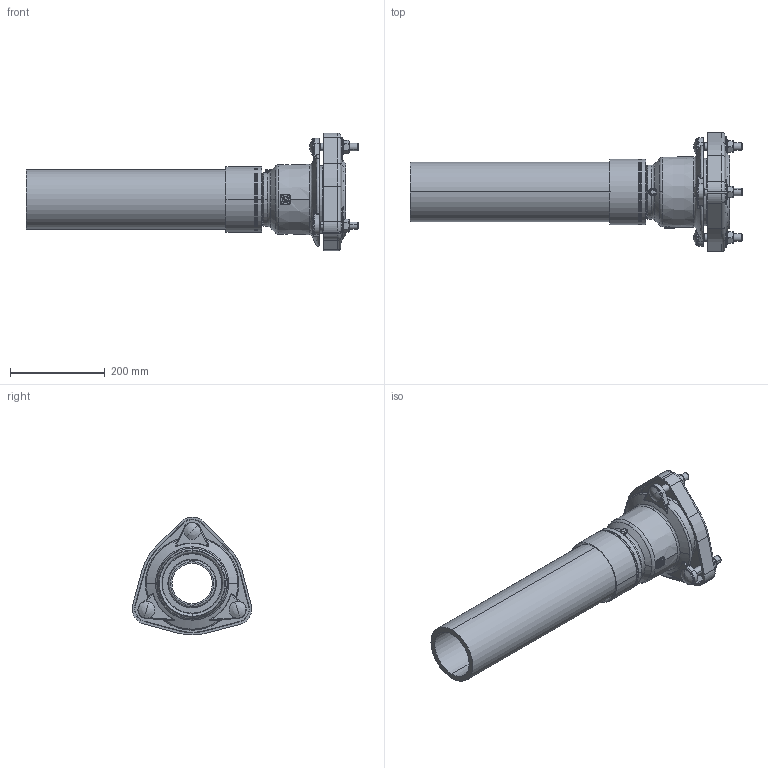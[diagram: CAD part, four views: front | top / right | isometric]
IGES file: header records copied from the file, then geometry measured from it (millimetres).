
Global section: file name: No Iges File Name specified; native system: AutoDesk Inventor R12.0; preprocessor: AutoDesk Inventor Iges Exporter R12.0; date: 20120509.094157; units: millimetre
Bounding box: 699 x 252.11 x 248.29 mm (x, y, z)
Volume: 3403083.4 mm3; surface area: 753618.3 mm2
Topology: 1 solids, 1 shells, 624 faces, 1611 edges, 1012 vertices
Faces by surface type: plane 169, revolution 121, cylinder 116, bspline 100, cone 68, torus 50
